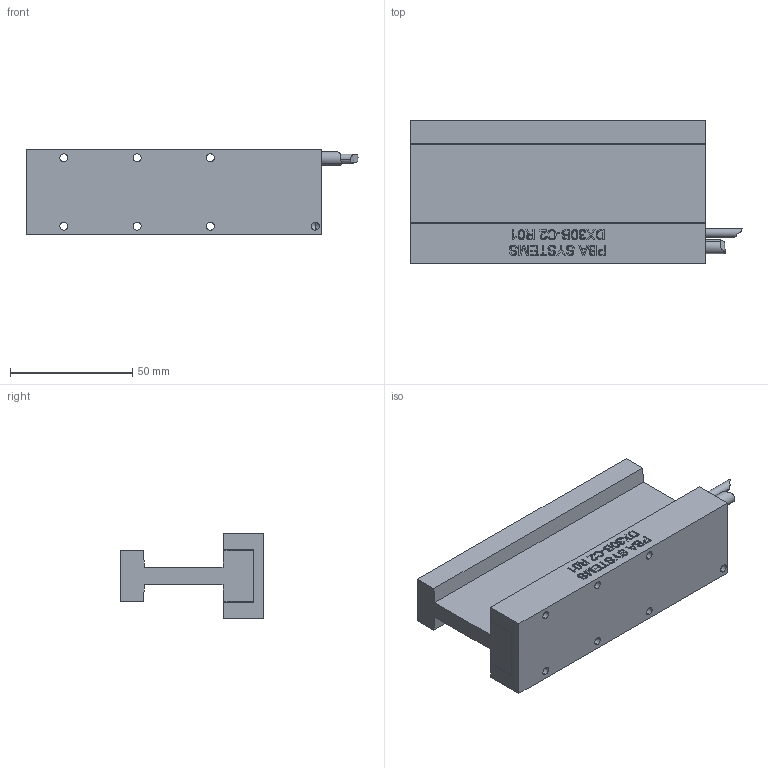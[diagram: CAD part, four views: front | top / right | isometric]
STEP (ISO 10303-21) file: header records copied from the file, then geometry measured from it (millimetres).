
FILE_DESCRIPTION (( 'STEP AP203' ), '1' );
FILE_NAME ('DX30B-C2-000.STEP', '2015-05-28T01:55:52', ( 'PBAsystems' ), ( '' ), 'SwSTEP 2.0', 'SolidWorks 2013', '' );
FILE_SCHEMA (( 'CONFIG_CONTROL_DESIGN' ));
Length unit declared in the file: millimetre
Products named in the file (5): CBL_MTR_PWR_SS_7C2C_SA (#2936-1); CBL_MTR_HALL_SS_5C_SA (#2935-1); DX30B-C2-000; DX30B-C2-001_CUSTOMER WITH ENGRAVE; DX30B-CX-002_C2
Assembly tree (4 placements, depth 2):
  DX30B-C2-000
    DX30B-C2-001_CUSTOMER WITH ENGRAVE
    DX30B-CX-002_C2
    CBL_MTR_PWR_SS_7C2C_SA (#2936-1)
    CBL_MTR_HALL_SS_5C_SA (#2935-1)
Bounding box: 136 x 58.8 x 35 mm (x, y, z)
Volume: 120410.1 mm3; surface area: 40665.6 mm2
Topology: 4 solids, 4 shells, 674 faces, 1807 edges, 1203 vertices
Faces by surface type: plane 355, bspline 296, cylinder 21, cone 2
Entity records: 36864 total; most frequent: CARTESIAN_POINT 21459, ORIENTED_EDGE 3610, DIRECTION 2021, EDGE_CURVE 1805, VERTEX_POINT 1203, LINE 1175, VECTOR 1175, EDGE_LOOP 750
